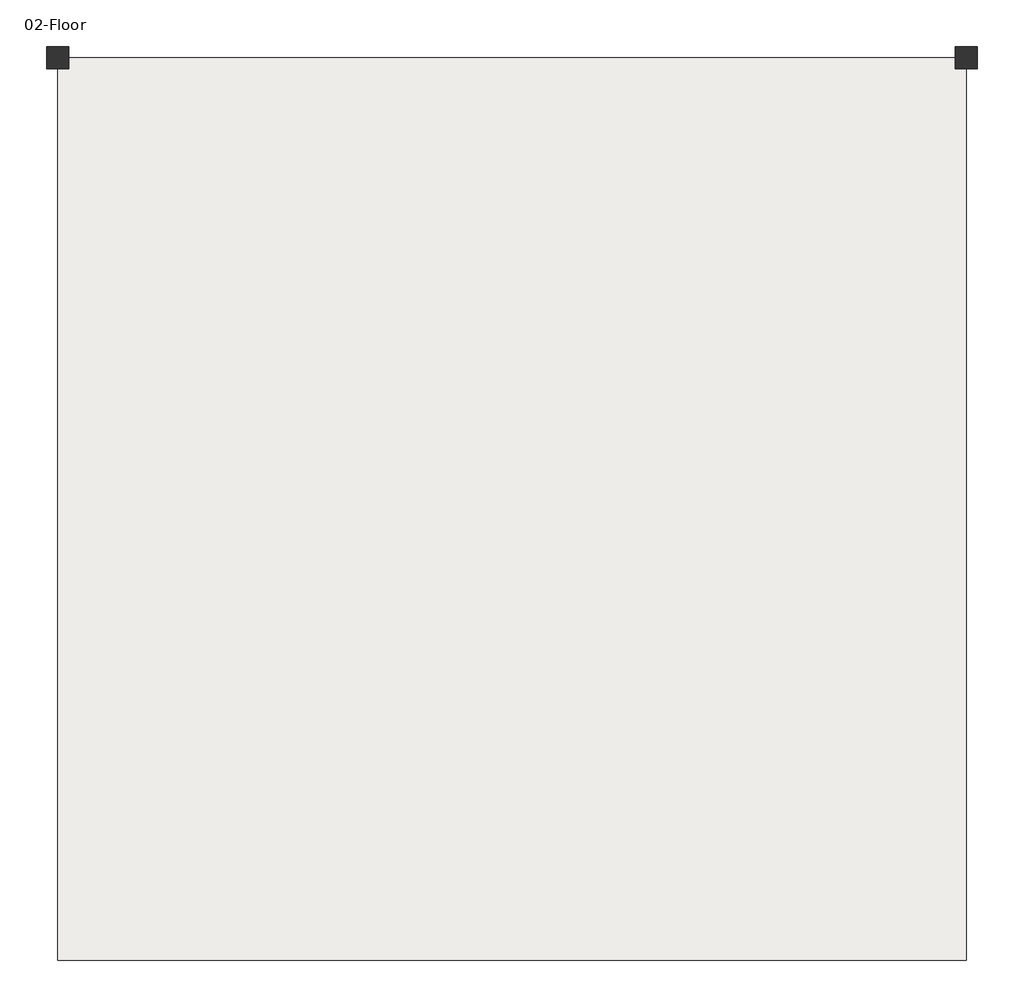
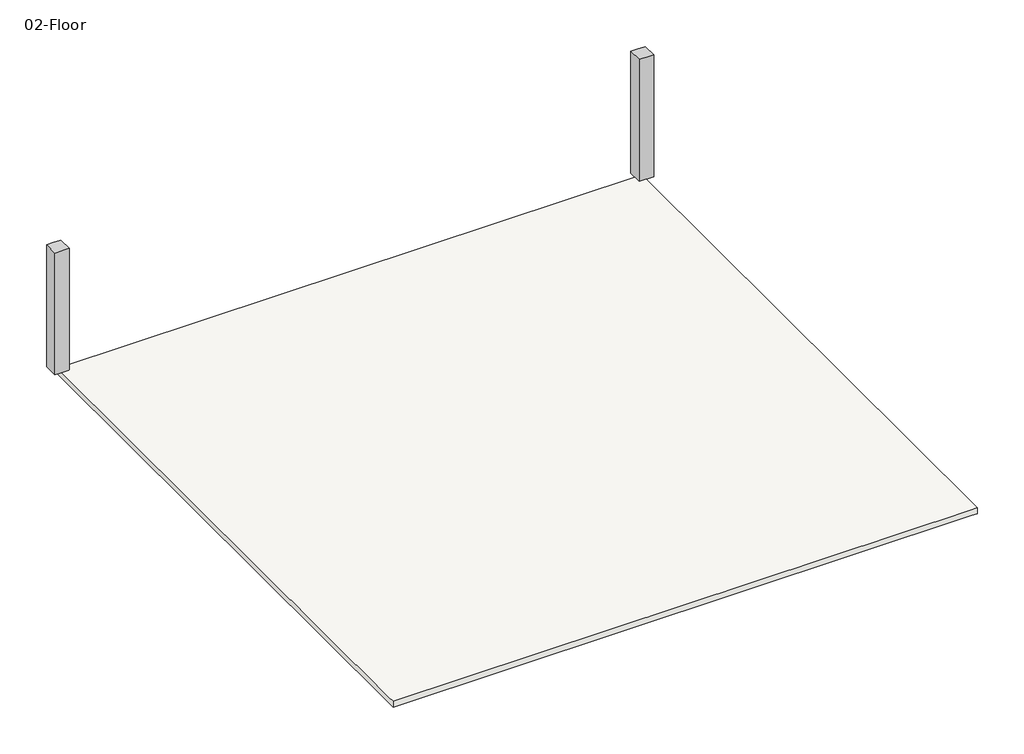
# One storey: 2 columns, 1 slab.
"""IFC4 building model written with IfcOpenShell, lengths in millimetres."""

from ifc_helpers import new_model, si_unit, origin, place, context, project, spatial, faceted_brep, element, save

model = new_model("IFC4")

# Units and contexts
model_context = context("Model", 3, world=origin())
ifc_project = project(units=[si_unit("LENGTHUNIT", "METRE", prefix="MILLI")], contexts=[model_context])

# Site, building, storey
site = spatial("IfcSite", under=ifc_project)
building = spatial("IfcBuilding", under=site)
storey = spatial("IfcBuildingStorey", under=building, Name="02-Floor", Elevation=3657.6)

# Columns
placement = place(None, origin())
element("IfcColumn", 1, ObjectType="Concrete-Rectangular-Column : 12 x 12", at=placement, inside=storey, context=model_context, shape_type="Brep", body=[
    faceted_brep([(-22484.7920692, 11434.1050815, 3657.6), (-22484.7920692, 11129.3050815, 3657.6), (-22637.1920692, 11129.3050815, 3657.6), (-22789.5920692, 11129.3050815, 3657.6), (-22789.5920692, 11434.1050815, 3657.6), (-22484.7920692, 11434.1050815, 6400.8), (-22484.7920692, 11129.3050815, 6400.8), (-22637.1920692, 11129.3050815, 6400.8), (-22789.5920692, 11129.3050815, 6400.8), (-22789.5920692, 11434.1050815, 6400.8), (-22637.1920692, 11434.1050815, 6400.8)], [[[0, 1, 2, 3, 4]], [[5, 6, 1, 0]], [[6, 7, 8, 3, 2, 1]], [[8, 9, 4, 3]], [[9, 10, 5, 0, 4]], [[5, 10, 9, 8, 7, 6]]]),
])
element("IfcColumn", 2, ObjectType="Concrete-Rectangular-Column : 12 x 12", at=placement, inside=storey, context=model_context, shape_type="Brep", body=[
    faceted_brep([(-10043.0983314, 11434.1050815, 3657.6), (-10043.0983314, 11129.3050815, 3657.6), (-10195.4983314, 11129.3050815, 3657.6), (-10347.8983314, 11129.3050815, 3657.6), (-10347.8983314, 11434.1050815, 3657.6), (-10043.0983314, 11434.1050815, 6400.8), (-10043.0983314, 11129.3050815, 6400.8), (-10195.4983314, 11129.3050815, 6400.8), (-10347.8983314, 11129.3050815, 6400.8), (-10347.8983314, 11434.1050815, 6400.8), (-10195.4983314, 11434.1050815, 6400.8)], [[[0, 1, 2, 3, 4]], [[5, 6, 1, 0]], [[6, 7, 8, 3, 2, 1]], [[8, 9, 4, 3]], [[9, 10, 5, 0, 4]], [[5, 10, 9, 8, 7, 6]]]),
])

# Slab
element("IfcSlab", 3, ObjectType="3\" LW Concrete on 2\" Metal Deck", at=placement, inside=storey, context=model_context, shape_type="Brep", body=[
    faceted_brep([(-10195.4983314, 11281.7050815, 3530.6), (-10195.4983314, 11129.3050815, 3530.6), (-10195.4983314, -1078.135408, 3530.6), (-10347.8983314, -1078.135408, 3530.6), (-22637.1920692, -1078.135408, 3530.6), (-22637.1920692, -925.735408, 3530.6), (-22637.1920692, 11129.3050815, 3530.6), (-22637.1920692, 11281.7050815, 3530.6), (-10195.4983314, 11281.7050815, 3657.6), (-22637.1920692, 11281.7050815, 3657.6), (-22637.1920692, 11129.3050815, 3657.6), (-22637.1920692, -925.735408, 3657.6), (-22637.1920692, -1078.135408, 3657.6), (-10347.8983314, -1078.135408, 3657.6), (-10195.4983314, -1078.135408, 3657.6), (-10195.4983314, 11129.3050815, 3657.6)], [[[0, 1, 2, 3, 4, 5, 6, 7]], [[8, 9, 10, 11, 12, 13, 14, 15]], [[2, 1, 0, 8, 15, 14]], [[4, 3, 2, 14, 13, 12]], [[7, 6, 5, 4, 12, 11, 10, 9]], [[0, 7, 9, 8]]]),
])

save(model, "model.ifc")
